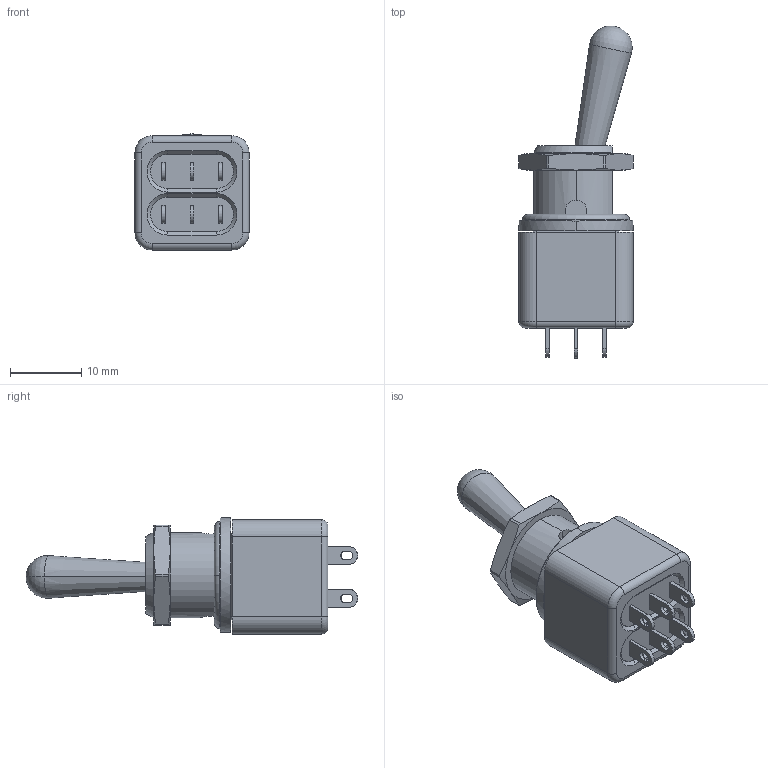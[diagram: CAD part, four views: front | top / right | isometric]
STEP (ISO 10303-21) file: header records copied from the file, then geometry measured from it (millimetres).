
FILE_DESCRIPTION((''),'2;1');
FILE_NAME('12146X778','2011-01-26T',('francis'),(''),'PRO/ENGINEER BY PARAMETRIC TECHNOLOGY CORPORATION, 2009440','PRO/ENGINEER BY PARAMETRIC TECHNOLOGY CORPORATION, 2009440','');
FILE_SCHEMA(('CONFIG_CONTROL_DESIGN'));
Length unit declared in the file: millimetre
Products named in the file (1): 12146X778
Bounding box: 16.01 x 46.49 x 16.25 mm (x, y, z)
Volume: 2761.4 mm3; surface area: 5433 mm2
Topology: 3 solids, 3 shells, 654 faces, 1805 edges, 1177 vertices
Faces by surface type: plane 452, cylinder 135, cone 43, torus 13, sphere 11
Entity records: 21374 total; most frequent: CARTESIAN_POINT 4490, ORIENTED_EDGE 3598, DIRECTION 3380, EDGE_CURVE 1799, VECTOR 1358, LINE 1358, VERTEX_POINT 1177, AXIS2_PLACEMENT_3D 1011
